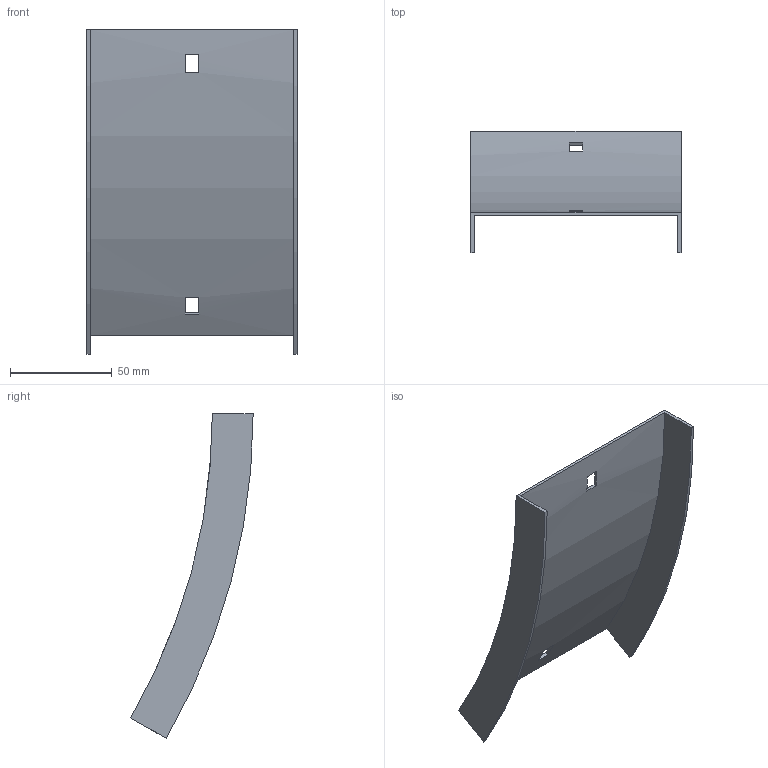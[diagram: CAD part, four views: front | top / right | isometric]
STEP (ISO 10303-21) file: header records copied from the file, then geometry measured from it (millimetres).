
FILE_DESCRIPTION (( 'STEP AP214' ), '1' );
FILE_NAME ('B2X32N3R100X.step', '2025-03-20T09:39:50', ( '' ), ( '' ), 'SwSTEP 2.0', 'SolidWorks 2023', '' );
FILE_SCHEMA (( 'AUTOMOTIVE_DESIGN' ));
Length unit declared in the file: millimetre
Products named in the file (1): B2X32N3R100X
Bounding box: 103 x 59.99 x 159.25 mm (x, y, z)
Volume: 33019.1 mm3; surface area: 45037.7 mm2
Topology: 1 solids, 1 shells, 18 faces, 48 edges, 32 vertices
Faces by surface type: plane 14, cylinder 4
Entity records: 599 total; most frequent: DIRECTION 102, CARTESIAN_POINT 99, ORIENTED_EDGE 96, EDGE_CURVE 48, AXIS2_PLACEMENT_3D 35, LINE 32, VECTOR 32, VERTEX_POINT 32
